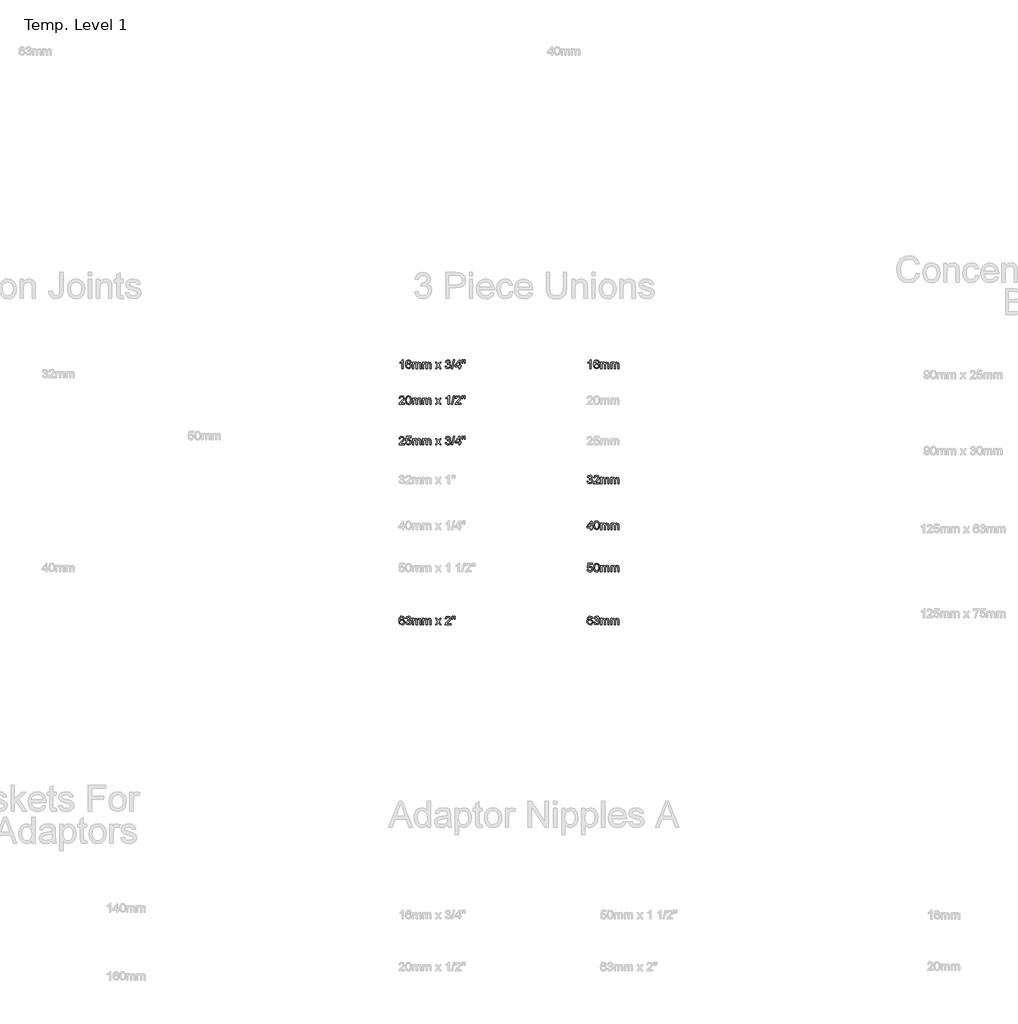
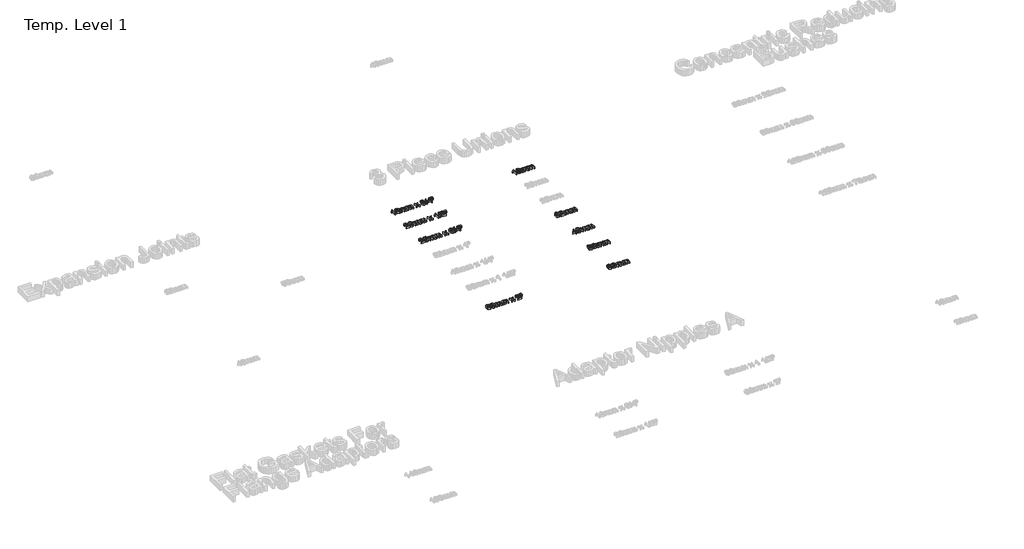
# One storey, part 13 of 62: 9 proxies.
"""IFC4 building model written with IfcOpenShell, lengths in millimetres."""

import ifcopenshell
import ifcopenshell.guid

model = None  # the IFC model being written
_history = None  # IfcOwnerHistory: only IFC2X3 demands one
_inside = {}  # id of a spatial element -> (the spatial element, [elements in it])
_under = {}  # id of a project, library or spatial element -> (it, [spatial elements below it])
_declared = {}  # id of a project -> (the project, [libraries it declares])
_typed = {}  # id of a type object -> (the type object, [elements of that type])
_made_of = {}  # id of a material, layer set ... -> (it, [elements and type objects made of it])


def new_model(schema):
    """Start an empty IFC model of exactly this schema.

    Asked for "IFC4X3", IfcOpenShell would pick the latest addendum, in which some entities
    have other attributes; the version numbers below select the first issue.
    IFC2X3 requires an IfcOwnerHistory on every rooted entity: one is made here for all.
    """
    global model, _history
    if schema == "IFC4X3":
        model = ifcopenshell.file(schema_version=(4, 3, 0, 0))
    else:
        model = ifcopenshell.file(schema=schema)
    _inside.clear()
    _under.clear()
    _declared.clear()
    _typed.clear()
    _made_of.clear()
    _history = None
    if model.schema == "IFC2X3":
        org = make("IfcOrganization", Name="unknown")
        user = make(
            "IfcPersonAndOrganization",
            ThePerson=make("IfcPerson", FamilyName="unknown"),
            TheOrganization=org,
        )
        app = make(
            "IfcApplication",
            ApplicationDeveloper=org,
            Version="unknown",
            ApplicationFullName="unknown",
            ApplicationIdentifier="unknown",
        )
        _history = make(
            "IfcOwnerHistory",
            OwningUser=user,
            OwningApplication=app,
            ChangeAction="ADDED",
            CreationDate=0,
        )
    return model


def make(cls, **values):
    """One entity of the class cls with the attributes given. An attribute that is None is left unset."""
    return model.create_entity(
        cls, **{name: value for name, value in values.items() if value is not None}
    )


def rooted(cls, **values):
    """An entity with a GlobalId (a new one), such as an element, a storey or a relation."""
    return make(cls, GlobalId=ifcopenshell.guid.new(), OwnerHistory=_history, **values)


def si_unit(unit_type, name, prefix=None):
    """IfcSIUnit, for example si_unit("LENGTHUNIT", "METRE", prefix="MILLI")."""
    return make("IfcSIUnit", UnitType=unit_type, Prefix=prefix, Name=name)


def assignment(units):
    """IfcUnitAssignment: the units of a project."""
    return None if units is None else make("IfcUnitAssignment", Units=units)


def point(xyz):
    """IfcCartesianPoint."""
    return None if xyz is None else make("IfcCartesianPoint", Coordinates=xyz)


def direction(xyz):
    """IfcDirection."""
    return None if xyz is None else make("IfcDirection", DirectionRatios=xyz)


def frame(location, z_axis=None, x_axis=None):
    """IfcAxis2Placement3D, a coordinate frame: its origin and axes. An axis left out is left unset."""
    return make(
        "IfcAxis2Placement3D",
        Location=point(location),
        Axis=direction(z_axis),
        RefDirection=direction(x_axis),
    )


def origin():
    """The frame at (0, 0, 0) with its axes left unset."""
    return frame((0.0, 0.0, 0.0))


def origin_with_axes():
    """The frame at (0, 0, 0) with the z axis (0, 0, 1) and the x axis (1, 0, 0) written out."""
    return frame((0.0, 0.0, 0.0), z_axis=(0.0, 0.0, 1.0), x_axis=(1.0, 0.0, 0.0))


def place(relative_to, where):
    """IfcLocalPlacement: puts the frame where relative to a parent placement (None: the world)."""
    return make(
        "IfcLocalPlacement", PlacementRelTo=relative_to, RelativePlacement=where
    )


def context(
    kind, dimensions, precision=None, world=None, true_north=None, identifier=None
):
    """IfcGeometricRepresentationContext, for example the 3D "Model" context."""
    return make(
        "IfcGeometricRepresentationContext",
        ContextIdentifier=identifier,
        ContextType=kind,
        CoordinateSpaceDimension=dimensions,
        Precision=precision,
        WorldCoordinateSystem=world,
        TrueNorth=true_north,
    )


def project(units=None, contexts=None):
    """IfcProject with its units and contexts."""
    return rooted(
        "IfcProject",
        Name="project",
        RepresentationContexts=contexts,
        UnitsInContext=assignment(units),
    )


def spatial(cls, under=None, at=None, **own):
    """A site, building, storey or space (cls), placed at a placement, below another one or the project."""
    s = rooted(cls, ObjectPlacement=at, **own)
    if under is not None:
        _under.setdefault(under.id(), (under, []))[1].append(s)
    return s


def polyline(points):
    """IfcPolyline through the points."""
    return make("IfcPolyline", Points=[point(p) for p in points])


def outline(outer, holes=None, kind="AREA"):
    """IfcArbitraryClosedProfileDef: a profile drawn as a closed curve; with holes, ...WithVoids."""
    if holes is None:
        return make("IfcArbitraryClosedProfileDef", ProfileType=kind, OuterCurve=outer)
    return make(
        "IfcArbitraryProfileDefWithVoids",
        ProfileType=kind,
        OuterCurve=outer,
        InnerCurves=holes,
    )


def extrude(swept, where, along, depth):
    """IfcExtrudedAreaSolid: the profile swept, set in the frame where, extruded along a direction by depth."""
    return make(
        "IfcExtrudedAreaSolid",
        SweptArea=swept,
        Position=where,
        ExtrudedDirection=direction(along),
        Depth=depth,
    )


def shape(context_of_items, identifier, shape_type, items):
    """IfcShapeRepresentation: the items that make up one representation, for example the "Body"."""
    return make(
        "IfcShapeRepresentation",
        ContextOfItems=context_of_items,
        RepresentationIdentifier=identifier,
        RepresentationType=shape_type,
        Items=items,
    )


def made_of(thing, what):
    """Note that an element or type object is made of a material, layer set ...; save() writes the relation."""
    if what is not None:
        _made_of.setdefault(what.id(), (what, []))[1].append(thing)
    return thing


def element(
    cls,
    number,
    at=None,
    inside=None,
    cuts=None,
    type_object=None,
    material=None,
    context=None,
    identifier="Body",
    shape_type=None,
    held_by="IfcProductDefinitionShape",
    body=None,
    shapes=None,
    **own,
):
    """One element of the class cls, such as IfcWall. Its Tag is "e" and its number.

    at: its placement. inside: the storey or other place that contains it. cuts: it is an
    opening in that element (IfcRelVoidsElement). A single representation is given by context,
    identifier, shape_type and body (its items); several are given by shapes. held_by: the class
    of the entity that holds the representations. save() writes the other relations.
    """
    e = rooted(cls, Tag="e%d" % number, ObjectPlacement=at, **own)
    if body is not None:
        shapes = [shape(context, identifier, shape_type, body)]
    if shapes is not None:
        e.Representation = make(held_by, Representations=shapes)
    if inside is not None:
        _inside.setdefault(inside.id(), (inside, []))[1].append(e)
    if cuts is not None:
        rooted(
            "IfcRelVoidsElement", RelatingBuildingElement=cuts, RelatedOpeningElement=e
        )
    if type_object is not None:
        _typed.setdefault(type_object.id(), (type_object, []))[1].append(e)
    return made_of(e, material)


def aggregate(whole, parts):
    """IfcRelAggregates: a whole, such as a stair, and the parts it consists of."""
    return rooted("IfcRelAggregates", RelatingObject=whole, RelatedObjects=parts)


def save(model, path):
    """Write the relations noted so far, then the file.

    IfcRelAggregates (storeys below a building ...), IfcRelContainedInSpatialStructure (elements
    in a storey), IfcRelDefinesByType, IfcRelAssociatesMaterial and IfcRelDeclares: one each for
    every whole, place, type object, material and project.
    """
    for whole, parts in _under.values():
        aggregate(whole, parts)
    for where, things in _inside.values():
        rooted(
            "IfcRelContainedInSpatialStructure",
            RelatedElements=things,
            RelatingStructure=where,
        )
    for kind, things in _typed.values():
        rooted("IfcRelDefinesByType", RelatedObjects=things, RelatingType=kind)
    for what, things in _made_of.values():
        rooted("IfcRelAssociatesMaterial", RelatedObjects=things, RelatingMaterial=what)
    for by, libraries in _declared.values():
        rooted("IfcRelDeclares", RelatingContext=by, RelatedDefinitions=libraries)
    model.write(path)


model = new_model("IFC4")

# Units and contexts
model_context = context("Model", 3, world=origin())
ifc_project = project(units=[si_unit("LENGTHUNIT", "METRE", prefix="MILLI")], contexts=[model_context])

# Site, building, storey
site = spatial("IfcSite", under=ifc_project)
building = spatial("IfcBuilding", under=site)
storey = spatial("IfcBuildingStorey", under=building, Name="Temp. Level 1", Elevation=0.0)

# Proxies
placement = place(None, origin())
element("IfcBuildingElementProxy", 1, Name="50mm Arial", ObjectType="50mm Arial", at=placement, inside=storey, context=model_context, shape_type="SweptSolid", body=[
    extrude(outline(polyline([(14674.252074, -4467.9759959), (14668.0982278, -4467.9759959), (14668.0982278, -4429.6106113), (14662.2689009, -4433.7632555), (14655.7905355, -4436.8702267), (14655.7905355, -4431.052919), (14664.8109682, -4425.2957074), (14670.2857278, -4418.7452267), (14674.252074, -4418.7452267), (14674.252074, -4467.9759959)])), origin_with_axes(), (0.0, 0.0, 1.0), 15.0),
    extrude(outline(polyline([(14720.4059201, -4431.8221497), (14714.252074, -4432.5913805), (14711.9203432, -4427.459169), (14705.7544778, -4424.8990728), (14700.2015932, -4426.3894574), (14696.0008721, -4431.9844093), (14694.252074, -4442.9519574), (14699.6787567, -4438.0421017), (14706.4035163, -4436.4375343), (14716.8602471, -4440.8245536), (14721.1751509, -4452.1586882), (14719.1439009, -4460.6502747), (14713.5549586, -4466.6598901), (14705.4900547, -4468.7452267), (14692.9479874, -4463.2163805), (14689.3106677, -4455.896669), (14688.0982278, -4444.9952267), (14689.4443817, -4432.7386161), (14693.4828432, -4424.3582074), (14698.9966653, -4420.1484718), (14706.1390932, -4418.7452267), (14715.8626509, -4422.2187843), (14720.4059201, -4431.8221497)]), holes=[polyline([(14694.252074, -4452.0625343), (14695.6763528, -4457.3930632), (14699.4624105, -4461.2632555), (14705.0092855, -4462.5913805), (14712.2628913, -4459.8389767), (14715.0213047, -4452.3630151), (14712.298949, -4445.2055632), (14704.7568817, -4442.5913805), (14697.3109682, -4445.2055632), (14694.252074, -4452.0625343)])]), origin_with_axes(), (0.0, 0.0, 1.0), 15.0),
    extrude(outline(polyline([(14728.0982278, -4467.9759959), (14728.0982278, -4431.8221497), (14734.252074, -4431.8221497), (14734.252074, -4437.771669), (14738.4828432, -4432.8978709), (14744.5044778, -4431.052919), (14750.6703432, -4432.9339286), (14754.0597663, -4438.2043613), (14758.861449, -4432.8407795), (14764.9251509, -4431.052919), (14772.9720259, -4434.0276786), (14775.7905355, -4443.192342), (14775.7905355, -4467.9759959), (14769.6366894, -4467.9759959), (14769.6366894, -4445.8365728), (14769.0657759, -4440.6983517), (14766.9984682, -4438.1683036), (14763.4828432, -4437.2067651), (14757.4311605, -4439.6707074), (14755.0213047, -4447.567342), (14755.0213047, -4467.9759959), (14748.8674586, -4467.9759959), (14748.8674586, -4445.1514767), (14747.4431797, -4439.1899382), (14742.7737086, -4437.2067651), (14738.2184201, -4438.5288805), (14735.189574, -4442.3990728), (14734.252074, -4449.7428228), (14734.252074, -4467.9759959), (14728.0982278, -4467.9759959)])), origin_with_axes(), (0.0, 0.0, 1.0), 15.0),
    extrude(outline(polyline([(14785.0213047, -4467.9759959), (14785.0213047, -4431.8221497), (14791.1751509, -4431.8221497), (14791.1751509, -4437.771669), (14795.4059201, -4432.8978709), (14801.4275547, -4431.052919), (14807.5934201, -4432.9339286), (14810.9828432, -4438.2043613), (14815.7845259, -4432.8407795), (14821.8482278, -4431.052919), (14829.8951028, -4434.0276786), (14832.7136124, -4443.192342), (14832.7136124, -4467.9759959), (14826.5597663, -4467.9759959), (14826.5597663, -4445.8365728), (14825.9888528, -4440.6983517), (14823.9215451, -4438.1683036), (14820.4059201, -4437.2067651), (14814.3542374, -4439.6707074), (14811.9443817, -4447.567342), (14811.9443817, -4467.9759959), (14805.7905355, -4467.9759959), (14805.7905355, -4445.1514767), (14804.3662567, -4439.1899382), (14799.6967855, -4437.2067651), (14795.1414971, -4438.5288805), (14792.1126509, -4442.3990728), (14791.1751509, -4449.7428228), (14791.1751509, -4467.9759959), (14785.0213047, -4467.9759959)])), origin_with_axes(), (0.0, 0.0, 1.0), 15.0),
    extrude(outline(polyline([(14857.3289971, -4467.9759959), (14870.4780355, -4449.802919), (14858.0982278, -4431.8221497), (14865.502074, -4431.8221497), (14871.4756317, -4440.4759959), (14874.2640932, -4444.5625343), (14876.6799586, -4441.2211882), (14883.4828432, -4431.8221497), (14890.8866894, -4431.8221497), (14877.8818817, -4449.802919), (14890.4059201, -4467.9759959), (14883.002074, -4467.9759959), (14875.4660163, -4457.0505151), (14874.0838047, -4455.0553228), (14864.7328432, -4467.9759959), (14857.3289971, -4467.9759959)])), origin_with_axes(), (0.0, 0.0, 1.0), 15.0),
    extrude(outline(polyline([(14913.4828432, -4454.8990728), (14919.6366894, -4454.129842), (14923.0321221, -4460.6082074), (14929.3842855, -4462.5913805), (14936.8602471, -4459.8630151), (14939.6366894, -4453.1082074), (14936.8842855, -4446.7440247), (14929.8890932, -4444.2259959), (14925.5741894, -4444.8990728), (14926.2592855, -4438.7452267), (14934.2280355, -4437.0505151), (14937.3289971, -4431.6178228), (14935.0814009, -4426.8041209), (14929.2881317, -4424.8990728), (14923.4227471, -4426.8221497), (14920.4059201, -4432.5913805), (14914.252074, -4431.8221497), (14919.2881317, -4422.1707074), (14929.0717855, -4418.7452267), (14936.4936605, -4420.4339286), (14941.6859682, -4425.0493132), (14943.4828432, -4431.2572459), (14941.7761124, -4436.9303228), (14936.7280355, -4441.004842), (14943.4347663, -4445.2115728), (14945.7905355, -4453.2163805), (14941.0789971, -4464.2259959), (14929.1679394, -4468.7452267), (14918.3746701, -4464.8870536), (14913.4828432, -4454.8990728)])), origin_with_axes(), (0.0, 0.0, 1.0), 15.0),
    extrude(outline(polyline([(14948.0982278, -4467.9759959), (14961.9443817, -4418.7452267), (14967.4972663, -4418.7452267), (14953.6511124, -4467.9759959), (14948.0982278, -4467.9759959)])), origin_with_axes(), (0.0, 0.0, 1.0), 15.0),
    extrude(outline(polyline([(14990.4059201, -4467.9759959), (14990.4059201, -4456.4375343), (14968.0982278, -4456.4375343), (14968.0982278, -4450.2836882), (14991.9443817, -4419.5144574), (14996.5597663, -4419.5144574), (14996.5597663, -4450.2836882), (15002.7136124, -4450.2836882), (15002.7136124, -4456.4375343), (14996.5597663, -4456.4375343), (14996.5597663, -4467.9759959), (14990.4059201, -4467.9759959)]), holes=[polyline([(14990.4059201, -4450.2836882), (14990.4059201, -4431.2692651), (14975.6703432, -4450.2836882), (14990.4059201, -4450.2836882)])]), origin_with_axes(), (0.0, 0.0, 1.0), 15.0),
    extrude(outline(polyline([(15021.8722663, -4436.4375343), (15020.4059201, -4426.9303228), (15020.4059201, -4418.7452267), (15026.5597663, -4418.7452267), (15026.5597663, -4426.9303228), (15025.1174586, -4436.4375343), (15021.8722663, -4436.4375343)])), origin_with_axes(), (0.0, 0.0, 1.0), 15.0),
    extrude(outline(polyline([(15009.6006317, -4436.4375343), (15008.0982278, -4426.9303228), (15008.0982278, -4418.7452267), (15014.252074, -4418.7452267), (15014.252074, -4426.9303228), (15012.9059201, -4436.4375343), (15009.6006317, -4436.4375343)])), origin_with_axes(), (0.0, 0.0, 1.0), 15.0),
])
element("IfcBuildingElementProxy", 2, Name="50mm Arial", ObjectType="50mm Arial", at=placement, inside=storey, context=model_context, shape_type="SweptSolid", body=[
    extrude(outline(polyline([(14682.7136124, -4665.3221497), (14682.7136124, -4671.4759959), (14650.4059201, -4671.4759959), (14651.0669778, -4667.2332074), (14654.8049586, -4660.7007555), (14662.5092855, -4653.567342), (14673.1342855, -4643.3149382), (14675.7905355, -4636.3437843), (14673.2845259, -4630.7007555), (14666.7400547, -4628.3990728), (14659.9191413, -4630.646669), (14657.3289971, -4636.8606113), (14651.1751509, -4636.0913805), (14655.892699, -4625.7908997), (14666.8722663, -4622.2452267), (14677.8878913, -4626.1875343), (14681.9443817, -4635.9711882), (14680.8506317, -4641.8065247), (14677.2148144, -4647.8401786), (14668.3987086, -4656.271669), (14661.3193817, -4662.1911401), (14658.5429394, -4665.3221497), (14682.7136124, -4665.3221497)])), origin_with_axes(), (0.0, 0.0, 1.0), 15.0),
    extrude(outline(polyline([(14688.8674586, -4647.2572459), (14690.6763528, -4633.0925824), (14696.048949, -4624.9255151), (14705.0213047, -4622.2452267), (14712.2088047, -4623.8317651), (14717.1727471, -4628.4050824), (14720.0573624, -4635.6887363), (14721.1751509, -4647.2572459), (14719.3842855, -4661.3618132), (14714.0297182, -4669.5469093), (14705.0213047, -4672.2452267), (14693.7713047, -4667.5577267), (14690.0934201, -4659.2314045), (14688.8674586, -4647.2572459)]), holes=[polyline([(14695.0213047, -4647.2452267), (14697.9059201, -4662.5276786), (14705.0213047, -4666.0913805), (14712.1366894, -4662.5156593), (14715.0213047, -4647.2452267), (14712.2328432, -4632.1370536), (14704.9491894, -4628.3990728), (14698.002074, -4631.692342), (14695.0213047, -4647.2452267)])]), origin_with_axes(), (0.0, 0.0, 1.0), 15.0),
    extrude(outline(polyline([(14728.0982278, -4671.4759959), (14728.0982278, -4635.3221497), (14734.252074, -4635.3221497), (14734.252074, -4641.271669), (14738.4828432, -4636.3978709), (14744.5044778, -4634.552919), (14750.6703432, -4636.4339286), (14754.0597663, -4641.7043613), (14758.861449, -4636.3407795), (14764.9251509, -4634.552919), (14772.9720259, -4637.5276786), (14775.7905355, -4646.692342), (14775.7905355, -4671.4759959), (14769.6366894, -4671.4759959), (14769.6366894, -4649.3365728), (14769.0657759, -4644.1983517), (14766.9984682, -4641.6683036), (14763.4828432, -4640.7067651), (14757.4311605, -4643.1707074), (14755.0213047, -4651.067342), (14755.0213047, -4671.4759959), (14748.8674586, -4671.4759959), (14748.8674586, -4648.6514767), (14747.4431797, -4642.6899382), (14742.7737086, -4640.7067651), (14738.2184201, -4642.0288805), (14735.189574, -4645.8990728), (14734.252074, -4653.2428228), (14734.252074, -4671.4759959), (14728.0982278, -4671.4759959)])), origin_with_axes(), (0.0, 0.0, 1.0), 15.0),
    extrude(outline(polyline([(14785.0213047, -4671.4759959), (14785.0213047, -4635.3221497), (14791.1751509, -4635.3221497), (14791.1751509, -4641.271669), (14795.4059201, -4636.3978709), (14801.4275547, -4634.552919), (14807.5934201, -4636.4339286), (14810.9828432, -4641.7043613), (14815.7845259, -4636.3407795), (14821.8482278, -4634.552919), (14829.8951028, -4637.5276786), (14832.7136124, -4646.692342), (14832.7136124, -4671.4759959), (14826.5597663, -4671.4759959), (14826.5597663, -4649.3365728), (14825.9888528, -4644.1983517), (14823.9215451, -4641.6683036), (14820.4059201, -4640.7067651), (14814.3542374, -4643.1707074), (14811.9443817, -4651.067342), (14811.9443817, -4671.4759959), (14805.7905355, -4671.4759959), (14805.7905355, -4648.6514767), (14804.3662567, -4642.6899382), (14799.6967855, -4640.7067651), (14795.1414971, -4642.0288805), (14792.1126509, -4645.8990728), (14791.1751509, -4653.2428228), (14791.1751509, -4671.4759959), (14785.0213047, -4671.4759959)])), origin_with_axes(), (0.0, 0.0, 1.0), 15.0),
    extrude(outline(polyline([(14857.3289971, -4671.4759959), (14870.4780355, -4653.302919), (14858.0982278, -4635.3221497), (14865.502074, -4635.3221497), (14871.4756317, -4643.9759959), (14874.2640932, -4648.0625343), (14876.6799586, -4644.7211882), (14883.4828432, -4635.3221497), (14890.8866894, -4635.3221497), (14877.8818817, -4653.302919), (14890.4059201, -4671.4759959), (14883.002074, -4671.4759959), (14875.4660163, -4660.5505151), (14874.0838047, -4658.5553228), (14864.7328432, -4671.4759959), (14857.3289971, -4671.4759959)])), origin_with_axes(), (0.0, 0.0, 1.0), 15.0),
    extrude(outline(polyline([(14936.5597663, -4671.4759959), (14930.4059201, -4671.4759959), (14930.4059201, -4633.1106113), (14924.5765932, -4637.2632555), (14918.0982278, -4640.3702267), (14918.0982278, -4634.552919), (14927.1186605, -4628.7957074), (14932.5934201, -4622.2452267), (14936.5597663, -4622.2452267), (14936.5597663, -4671.4759959)])), origin_with_axes(), (0.0, 0.0, 1.0), 15.0),
    extrude(outline(polyline([(14948.0982278, -4671.4759959), (14961.9443817, -4622.2452267), (14967.4972663, -4622.2452267), (14953.6511124, -4671.4759959), (14948.0982278, -4671.4759959)])), origin_with_axes(), (0.0, 0.0, 1.0), 15.0),
    extrude(outline(polyline([(15001.9443817, -4665.3221497), (15001.9443817, -4671.4759959), (14969.6366894, -4671.4759959), (14970.2977471, -4667.2332074), (14974.0357278, -4660.7007555), (14981.7400547, -4653.567342), (14992.3650547, -4643.3149382), (14995.0213047, -4636.3437843), (14992.5152951, -4630.7007555), (14985.970824, -4628.3990728), (14979.1499105, -4630.646669), (14976.5597663, -4636.8606113), (14970.4059201, -4636.0913805), (14975.1234682, -4625.7908997), (14986.1030355, -4622.2452267), (14997.1186605, -4626.1875343), (15001.1751509, -4635.9711882), (15000.0814009, -4641.8065247), (14996.4455836, -4647.8401786), (14987.6294778, -4656.271669), (14980.5501509, -4662.1911401), (14977.7737086, -4665.3221497), (15001.9443817, -4665.3221497)])), origin_with_axes(), (0.0, 0.0, 1.0), 15.0),
    extrude(outline(polyline([(15021.8722663, -4639.9375343), (15020.4059201, -4630.4303228), (15020.4059201, -4622.2452267), (15026.5597663, -4622.2452267), (15026.5597663, -4630.4303228), (15025.1174586, -4639.9375343), (15021.8722663, -4639.9375343)])), origin_with_axes(), (0.0, 0.0, 1.0), 15.0),
    extrude(outline(polyline([(15009.6006317, -4639.9375343), (15008.0982278, -4630.4303228), (15008.0982278, -4622.2452267), (15014.252074, -4622.2452267), (15014.252074, -4630.4303228), (15012.9059201, -4639.9375343), (15009.6006317, -4639.9375343)])), origin_with_axes(), (0.0, 0.0, 1.0), 15.0),
])
element("IfcBuildingElementProxy", 3, Name="50mm Arial", ObjectType="50mm Arial", at=placement, inside=storey, context=model_context, shape_type="SweptSolid", body=[
    extrude(outline(polyline([(14682.7136124, -4895.3221497), (14682.7136124, -4901.4759959), (14650.4059201, -4901.4759959), (14651.0669778, -4897.2332074), (14654.8049586, -4890.7007555), (14662.5092855, -4883.567342), (14673.1342855, -4873.3149382), (14675.7905355, -4866.3437843), (14673.2845259, -4860.7007555), (14666.7400547, -4858.3990728), (14659.9191413, -4860.646669), (14657.3289971, -4866.8606113), (14651.1751509, -4866.0913805), (14655.892699, -4855.7908997), (14666.8722663, -4852.2452267), (14677.8878913, -4856.1875343), (14681.9443817, -4865.9711882), (14680.8506317, -4871.8065247), (14677.2148144, -4877.8401786), (14668.3987086, -4886.271669), (14661.3193817, -4892.1911401), (14658.5429394, -4895.3221497), (14682.7136124, -4895.3221497)])), origin_with_axes(), (0.0, 0.0, 1.0), 15.0),
    extrude(outline(polyline([(14688.8674586, -4888.3990728), (14695.0213047, -4887.629842), (14698.1222663, -4893.9699863), (14704.5525547, -4896.0913805), (14712.2689009, -4893.1406593), (14715.0213047, -4885.3101305), (14712.4431797, -4878.0024382), (14704.6487086, -4875.3221497), (14699.2460644, -4876.3918613), (14695.7905355, -4879.1683036), (14689.6366894, -4878.3990728), (14695.0213047, -4853.0144574), (14718.8674586, -4853.0144574), (14718.8674586, -4859.1683036), (14699.9972663, -4859.1683036), (14697.3650547, -4872.7259959), (14706.3674586, -4869.1683036), (14716.8902951, -4873.5793613), (14721.1751509, -4884.9255151), (14717.3169778, -4896.3437843), (14711.7761124, -4900.7698661), (14704.5285163, -4902.2452267), (14693.6691413, -4898.4531593), (14688.8674586, -4888.3990728)])), origin_with_axes(), (0.0, 0.0, 1.0), 15.0),
    extrude(outline(polyline([(14728.0982278, -4901.4759959), (14728.0982278, -4865.3221497), (14734.252074, -4865.3221497), (14734.252074, -4871.271669), (14738.4828432, -4866.3978709), (14744.5044778, -4864.552919), (14750.6703432, -4866.4339286), (14754.0597663, -4871.7043613), (14758.861449, -4866.3407795), (14764.9251509, -4864.552919), (14772.9720259, -4867.5276786), (14775.7905355, -4876.692342), (14775.7905355, -4901.4759959), (14769.6366894, -4901.4759959), (14769.6366894, -4879.3365728), (14769.0657759, -4874.1983517), (14766.9984682, -4871.6683036), (14763.4828432, -4870.7067651), (14757.4311605, -4873.1707074), (14755.0213047, -4881.067342), (14755.0213047, -4901.4759959), (14748.8674586, -4901.4759959), (14748.8674586, -4878.6514767), (14747.4431797, -4872.6899382), (14742.7737086, -4870.7067651), (14738.2184201, -4872.0288805), (14735.189574, -4875.8990728), (14734.252074, -4883.2428228), (14734.252074, -4901.4759959), (14728.0982278, -4901.4759959)])), origin_with_axes(), (0.0, 0.0, 1.0), 15.0),
    extrude(outline(polyline([(14785.0213047, -4901.4759959), (14785.0213047, -4865.3221497), (14791.1751509, -4865.3221497), (14791.1751509, -4871.271669), (14795.4059201, -4866.3978709), (14801.4275547, -4864.552919), (14807.5934201, -4866.4339286), (14810.9828432, -4871.7043613), (14815.7845259, -4866.3407795), (14821.8482278, -4864.552919), (14829.8951028, -4867.5276786), (14832.7136124, -4876.692342), (14832.7136124, -4901.4759959), (14826.5597663, -4901.4759959), (14826.5597663, -4879.3365728), (14825.9888528, -4874.1983517), (14823.9215451, -4871.6683036), (14820.4059201, -4870.7067651), (14814.3542374, -4873.1707074), (14811.9443817, -4881.067342), (14811.9443817, -4901.4759959), (14805.7905355, -4901.4759959), (14805.7905355, -4878.6514767), (14804.3662567, -4872.6899382), (14799.6967855, -4870.7067651), (14795.1414971, -4872.0288805), (14792.1126509, -4875.8990728), (14791.1751509, -4883.2428228), (14791.1751509, -4901.4759959), (14785.0213047, -4901.4759959)])), origin_with_axes(), (0.0, 0.0, 1.0), 15.0),
    extrude(outline(polyline([(14857.3289971, -4901.4759959), (14870.4780355, -4883.302919), (14858.0982278, -4865.3221497), (14865.502074, -4865.3221497), (14871.4756317, -4873.9759959), (14874.2640932, -4878.0625343), (14876.6799586, -4874.7211882), (14883.4828432, -4865.3221497), (14890.8866894, -4865.3221497), (14877.8818817, -4883.302919), (14890.4059201, -4901.4759959), (14883.002074, -4901.4759959), (14875.4660163, -4890.5505151), (14874.0838047, -4888.5553228), (14864.7328432, -4901.4759959), (14857.3289971, -4901.4759959)])), origin_with_axes(), (0.0, 0.0, 1.0), 15.0),
    extrude(outline(polyline([(14913.4828432, -4888.3990728), (14919.6366894, -4887.629842), (14923.0321221, -4894.1082074), (14929.3842855, -4896.0913805), (14936.8602471, -4893.3630151), (14939.6366894, -4886.6082074), (14936.8842855, -4880.2440247), (14929.8890932, -4877.7259959), (14925.5741894, -4878.3990728), (14926.2592855, -4872.2452267), (14934.2280355, -4870.5505151), (14937.3289971, -4865.1178228), (14935.0814009, -4860.3041209), (14929.2881317, -4858.3990728), (14923.4227471, -4860.3221497), (14920.4059201, -4866.0913805), (14914.252074, -4865.3221497), (14919.2881317, -4855.6707074), (14929.0717855, -4852.2452267), (14936.4936605, -4853.9339286), (14941.6859682, -4858.5493132), (14943.4828432, -4864.7572459), (14941.7761124, -4870.4303228), (14936.7280355, -4874.504842), (14943.4347663, -4878.7115728), (14945.7905355, -4886.7163805), (14941.0789971, -4897.7259959), (14929.1679394, -4902.2452267), (14918.3746701, -4898.3870536), (14913.4828432, -4888.3990728)])), origin_with_axes(), (0.0, 0.0, 1.0), 15.0),
    extrude(outline(polyline([(14948.0982278, -4901.4759959), (14961.9443817, -4852.2452267), (14967.4972663, -4852.2452267), (14953.6511124, -4901.4759959), (14948.0982278, -4901.4759959)])), origin_with_axes(), (0.0, 0.0, 1.0), 15.0),
    extrude(outline(polyline([(14990.4059201, -4901.4759959), (14990.4059201, -4889.9375343), (14968.0982278, -4889.9375343), (14968.0982278, -4883.7836882), (14991.9443817, -4853.0144574), (14996.5597663, -4853.0144574), (14996.5597663, -4883.7836882), (15002.7136124, -4883.7836882), (15002.7136124, -4889.9375343), (14996.5597663, -4889.9375343), (14996.5597663, -4901.4759959), (14990.4059201, -4901.4759959)]), holes=[polyline([(14990.4059201, -4883.7836882), (14990.4059201, -4864.7692651), (14975.6703432, -4883.7836882), (14990.4059201, -4883.7836882)])]), origin_with_axes(), (0.0, 0.0, 1.0), 15.0),
    extrude(outline(polyline([(15021.8722663, -4869.9375343), (15020.4059201, -4860.4303228), (15020.4059201, -4852.2452267), (15026.5597663, -4852.2452267), (15026.5597663, -4860.4303228), (15025.1174586, -4869.9375343), (15021.8722663, -4869.9375343)])), origin_with_axes(), (0.0, 0.0, 1.0), 15.0),
    extrude(outline(polyline([(15009.6006317, -4869.9375343), (15008.0982278, -4860.4303228), (15008.0982278, -4852.2452267), (15014.252074, -4852.2452267), (15014.252074, -4860.4303228), (15012.9059201, -4869.9375343), (15009.6006317, -4869.9375343)])), origin_with_axes(), (0.0, 0.0, 1.0), 15.0),
])
element("IfcBuildingElementProxy", 4, Name="50mm Arial", ObjectType="50mm Arial", at=placement, inside=storey, context=model_context, shape_type="SweptSolid", body=[
    extrude(outline(polyline([(14682.7136124, -5885.3221497), (14676.5597663, -5886.0913805), (14674.2280355, -5880.959169), (14668.0621701, -5878.3990728), (14662.5092855, -5879.8894574), (14658.3085644, -5885.4844093), (14656.5597663, -5896.4519574), (14661.986449, -5891.5421017), (14668.7112086, -5889.9375343), (14679.1679394, -5894.3245536), (14683.4828432, -5905.6586882), (14681.4515932, -5914.1502747), (14675.8626509, -5920.1598901), (14667.7977471, -5922.2452267), (14655.2556797, -5916.7163805), (14651.61836, -5909.396669), (14650.4059201, -5898.4952267), (14651.752074, -5886.2386161), (14655.7905355, -5877.8582074), (14661.3043576, -5873.6484718), (14668.4467855, -5872.2452267), (14678.1703432, -5875.7187843), (14682.7136124, -5885.3221497)]), holes=[polyline([(14656.5597663, -5905.5625343), (14657.9840451, -5910.8930632), (14661.7701028, -5914.7632555), (14667.3169778, -5916.0913805), (14674.5705836, -5913.3389767), (14677.3289971, -5905.8630151), (14674.6066413, -5898.7055632), (14667.064574, -5896.0913805), (14659.6186605, -5898.7055632), (14656.5597663, -5905.5625343)])]), origin_with_axes(), (0.0, 0.0, 1.0), 15.0),
    extrude(outline(polyline([(14688.8674586, -5908.3990728), (14695.0213047, -5907.629842), (14698.4167374, -5914.1082074), (14704.7689009, -5916.0913805), (14712.2448624, -5913.3630151), (14715.0213047, -5906.6082074), (14712.2689009, -5900.2440247), (14705.2737086, -5897.7259959), (14700.9588047, -5898.3990728), (14701.6439009, -5892.2452267), (14709.6126509, -5890.5505151), (14712.7136124, -5885.1178228), (14710.4660163, -5880.3041209), (14704.6727471, -5878.3990728), (14698.8073624, -5880.3221497), (14695.7905355, -5886.0913805), (14689.6366894, -5885.3221497), (14694.6727471, -5875.6707074), (14704.4564009, -5872.2452267), (14711.8782759, -5873.9339286), (14717.0705836, -5878.5493132), (14718.8674586, -5884.7572459), (14717.1607278, -5890.4303228), (14712.1126509, -5894.504842), (14718.8193817, -5898.7115728), (14721.1751509, -5906.7163805), (14716.4636124, -5917.7259959), (14704.5525547, -5922.2452267), (14693.7592855, -5918.3870536), (14688.8674586, -5908.3990728)])), origin_with_axes(), (0.0, 0.0, 1.0), 15.0),
    extrude(outline(polyline([(14728.0982278, -5921.4759959), (14728.0982278, -5885.3221497), (14734.252074, -5885.3221497), (14734.252074, -5891.271669), (14738.4828432, -5886.3978709), (14744.5044778, -5884.552919), (14750.6703432, -5886.4339286), (14754.0597663, -5891.7043613), (14758.861449, -5886.3407795), (14764.9251509, -5884.552919), (14772.9720259, -5887.5276786), (14775.7905355, -5896.692342), (14775.7905355, -5921.4759959), (14769.6366894, -5921.4759959), (14769.6366894, -5899.3365728), (14769.0657759, -5894.1983517), (14766.9984682, -5891.6683036), (14763.4828432, -5890.7067651), (14757.4311605, -5893.1707074), (14755.0213047, -5901.067342), (14755.0213047, -5921.4759959), (14748.8674586, -5921.4759959), (14748.8674586, -5898.6514767), (14747.4431797, -5892.6899382), (14742.7737086, -5890.7067651), (14738.2184201, -5892.0288805), (14735.189574, -5895.8990728), (14734.252074, -5903.2428228), (14734.252074, -5921.4759959), (14728.0982278, -5921.4759959)])), origin_with_axes(), (0.0, 0.0, 1.0), 15.0),
    extrude(outline(polyline([(14785.0213047, -5921.4759959), (14785.0213047, -5885.3221497), (14791.1751509, -5885.3221497), (14791.1751509, -5891.271669), (14795.4059201, -5886.3978709), (14801.4275547, -5884.552919), (14807.5934201, -5886.4339286), (14810.9828432, -5891.7043613), (14815.7845259, -5886.3407795), (14821.8482278, -5884.552919), (14829.8951028, -5887.5276786), (14832.7136124, -5896.692342), (14832.7136124, -5921.4759959), (14826.5597663, -5921.4759959), (14826.5597663, -5899.3365728), (14825.9888528, -5894.1983517), (14823.9215451, -5891.6683036), (14820.4059201, -5890.7067651), (14814.3542374, -5893.1707074), (14811.9443817, -5901.067342), (14811.9443817, -5921.4759959), (14805.7905355, -5921.4759959), (14805.7905355, -5898.6514767), (14804.3662567, -5892.6899382), (14799.6967855, -5890.7067651), (14795.1414971, -5892.0288805), (14792.1126509, -5895.8990728), (14791.1751509, -5903.2428228), (14791.1751509, -5921.4759959), (14785.0213047, -5921.4759959)])), origin_with_axes(), (0.0, 0.0, 1.0), 15.0),
    extrude(outline(polyline([(14857.3289971, -5921.4759959), (14870.4780355, -5903.302919), (14858.0982278, -5885.3221497), (14865.502074, -5885.3221497), (14871.4756317, -5893.9759959), (14874.2640932, -5898.0625343), (14876.6799586, -5894.7211882), (14883.4828432, -5885.3221497), (14890.8866894, -5885.3221497), (14877.8818817, -5903.302919), (14890.4059201, -5921.4759959), (14883.002074, -5921.4759959), (14875.4660163, -5910.5505151), (14874.0838047, -5908.5553228), (14864.7328432, -5921.4759959), (14857.3289971, -5921.4759959)])), origin_with_axes(), (0.0, 0.0, 1.0), 15.0),
    extrude(outline(polyline([(14945.0213047, -5915.3221497), (14945.0213047, -5921.4759959), (14912.7136124, -5921.4759959), (14913.3746701, -5917.2332074), (14917.1126509, -5910.7007555), (14924.8169778, -5903.567342), (14935.4419778, -5893.3149382), (14938.0982278, -5886.3437843), (14935.5922182, -5880.7007555), (14929.0477471, -5878.3990728), (14922.2268336, -5880.646669), (14919.6366894, -5886.8606113), (14913.4828432, -5886.0913805), (14918.2003913, -5875.7908997), (14929.1799586, -5872.2452267), (14940.1955836, -5876.1875343), (14944.252074, -5885.9711882), (14943.158324, -5891.8065247), (14939.5225067, -5897.8401786), (14930.7064009, -5906.271669), (14923.627074, -5912.1911401), (14920.8506317, -5915.3221497), (14945.0213047, -5915.3221497)])), origin_with_axes(), (0.0, 0.0, 1.0), 15.0),
    extrude(outline(polyline([(14952.6775547, -5889.9375343), (14951.1751509, -5880.4303228), (14951.1751509, -5872.2452267), (14957.3289971, -5872.2452267), (14957.3289971, -5880.4303228), (14955.9828432, -5889.9375343), (14952.6775547, -5889.9375343)])), origin_with_axes(), (0.0, 0.0, 1.0), 15.0),
    extrude(outline(polyline([(14964.9491894, -5889.9375343), (14963.4828432, -5880.4303228), (14963.4828432, -5872.2452267), (14969.6366894, -5872.2452267), (14969.6366894, -5880.4303228), (14968.1943817, -5889.9375343), (14964.9491894, -5889.9375343)])), origin_with_axes(), (0.0, 0.0, 1.0), 15.0),
])
element("IfcBuildingElementProxy", 5, Name="50mm Arial", ObjectType="50mm Arial", at=placement, inside=storey, context=model_context, shape_type="SweptSolid", body=[
    extrude(outline(polyline([(15741.9443817, -4467.9759959), (15735.7905355, -4467.9759959), (15735.7905355, -4429.6106113), (15729.9612086, -4433.7632555), (15723.4828432, -4436.8702267), (15723.4828432, -4431.052919), (15732.5032759, -4425.2957074), (15737.9780355, -4418.7452267), (15741.9443817, -4418.7452267), (15741.9443817, -4467.9759959)])), origin_with_axes(), (0.0, 0.0, 1.0), 15.0),
    extrude(outline(polyline([(15788.0982278, -4431.8221497), (15781.9443817, -4432.5913805), (15779.6126509, -4427.459169), (15773.4467855, -4424.8990728), (15767.8939009, -4426.3894574), (15763.6931797, -4431.9844093), (15761.9443817, -4442.9519574), (15767.3710644, -4438.0421017), (15774.095824, -4436.4375343), (15784.5525547, -4440.8245536), (15788.8674586, -4452.1586882), (15786.8362086, -4460.6502747), (15781.2472663, -4466.6598901), (15773.1823624, -4468.7452267), (15760.6402951, -4463.2163805), (15757.0029754, -4455.896669), (15755.7905355, -4444.9952267), (15757.1366894, -4432.7386161), (15761.1751509, -4424.3582074), (15766.688973, -4420.1484718), (15773.8314009, -4418.7452267), (15783.5549586, -4422.2187843), (15788.0982278, -4431.8221497)]), holes=[polyline([(15761.9443817, -4452.0625343), (15763.3686605, -4457.3930632), (15767.1547182, -4461.2632555), (15772.7015932, -4462.5913805), (15779.955199, -4459.8389767), (15782.7136124, -4452.3630151), (15779.9912567, -4445.2055632), (15772.4491894, -4442.5913805), (15765.0032759, -4445.2055632), (15761.9443817, -4452.0625343)])]), origin_with_axes(), (0.0, 0.0, 1.0), 15.0),
    extrude(outline(polyline([(15795.7905355, -4467.9759959), (15795.7905355, -4431.8221497), (15801.9443817, -4431.8221497), (15801.9443817, -4437.771669), (15806.1751509, -4432.8978709), (15812.1967855, -4431.052919), (15818.3626509, -4432.9339286), (15821.752074, -4438.2043613), (15826.5537567, -4432.8407795), (15832.6174586, -4431.052919), (15840.6643336, -4434.0276786), (15843.4828432, -4443.192342), (15843.4828432, -4467.9759959), (15837.3289971, -4467.9759959), (15837.3289971, -4445.8365728), (15836.7580836, -4440.6983517), (15834.6907759, -4438.1683036), (15831.1751509, -4437.2067651), (15825.1234682, -4439.6707074), (15822.7136124, -4447.567342), (15822.7136124, -4467.9759959), (15816.5597663, -4467.9759959), (15816.5597663, -4445.1514767), (15815.1354874, -4439.1899382), (15810.4660163, -4437.2067651), (15805.9107278, -4438.5288805), (15802.8818817, -4442.3990728), (15801.9443817, -4449.7428228), (15801.9443817, -4467.9759959), (15795.7905355, -4467.9759959)])), origin_with_axes(), (0.0, 0.0, 1.0), 15.0),
    extrude(outline(polyline([(15852.7136124, -4467.9759959), (15852.7136124, -4431.8221497), (15858.8674586, -4431.8221497), (15858.8674586, -4437.771669), (15863.0982278, -4432.8978709), (15869.1198624, -4431.052919), (15875.2857278, -4432.9339286), (15878.6751509, -4438.2043613), (15883.4768336, -4432.8407795), (15889.5405355, -4431.052919), (15897.5874105, -4434.0276786), (15900.4059201, -4443.192342), (15900.4059201, -4467.9759959), (15894.252074, -4467.9759959), (15894.252074, -4445.8365728), (15893.6811605, -4440.6983517), (15891.6138528, -4438.1683036), (15888.0982278, -4437.2067651), (15882.0465451, -4439.6707074), (15879.6366894, -4447.567342), (15879.6366894, -4467.9759959), (15873.4828432, -4467.9759959), (15873.4828432, -4445.1514767), (15872.0585644, -4439.1899382), (15867.3890932, -4437.2067651), (15862.8338047, -4438.5288805), (15859.8049586, -4442.3990728), (15858.8674586, -4449.7428228), (15858.8674586, -4467.9759959), (15852.7136124, -4467.9759959)])), origin_with_axes(), (0.0, 0.0, 1.0), 15.0),
])
element("IfcBuildingElementProxy", 6, Name="50mm Arial", ObjectType="50mm Arial", at=placement, inside=storey, context=model_context, shape_type="SweptSolid", body=[
    extrude(outline(polyline([(15718.8674586, -5108.3990728), (15725.0213047, -5107.629842), (15728.4167374, -5114.1082074), (15734.7689009, -5116.0913805), (15742.2448624, -5113.3630151), (15745.0213047, -5106.6082074), (15742.2689009, -5100.2440247), (15735.2737086, -5097.7259959), (15730.9588047, -5098.3990728), (15731.6439009, -5092.2452267), (15739.6126509, -5090.5505151), (15742.7136124, -5085.1178228), (15740.4660163, -5080.3041209), (15734.6727471, -5078.3990728), (15728.8073624, -5080.3221497), (15725.7905355, -5086.0913805), (15719.6366894, -5085.3221497), (15724.6727471, -5075.6707074), (15734.4564009, -5072.2452267), (15741.8782759, -5073.9339286), (15747.0705836, -5078.5493132), (15748.8674586, -5084.7572459), (15747.1607278, -5090.4303228), (15742.1126509, -5094.504842), (15748.8193817, -5098.7115728), (15751.1751509, -5106.7163805), (15746.4636124, -5117.7259959), (15734.5525547, -5122.2452267), (15723.7592855, -5118.3870536), (15718.8674586, -5108.3990728)])), origin_with_axes(), (0.0, 0.0, 1.0), 15.0),
    extrude(outline(polyline([(15788.0982278, -5115.3221497), (15788.0982278, -5121.4759959), (15755.7905355, -5121.4759959), (15756.4515932, -5117.2332074), (15760.189574, -5110.7007555), (15767.8939009, -5103.567342), (15778.5189009, -5093.3149382), (15781.1751509, -5086.3437843), (15778.6691413, -5080.7007555), (15772.1246701, -5078.3990728), (15765.3037567, -5080.646669), (15762.7136124, -5086.8606113), (15756.5597663, -5086.0913805), (15761.2773144, -5075.7908997), (15772.2568817, -5072.2452267), (15783.2725067, -5076.1875343), (15787.3289971, -5085.9711882), (15786.2352471, -5091.8065247), (15782.5994297, -5097.8401786), (15773.783324, -5106.271669), (15766.7039971, -5112.1911401), (15763.9275547, -5115.3221497), (15788.0982278, -5115.3221497)])), origin_with_axes(), (0.0, 0.0, 1.0), 15.0),
    extrude(outline(polyline([(15795.7905355, -5121.4759959), (15795.7905355, -5085.3221497), (15801.9443817, -5085.3221497), (15801.9443817, -5091.271669), (15806.1751509, -5086.3978709), (15812.1967855, -5084.552919), (15818.3626509, -5086.4339286), (15821.752074, -5091.7043613), (15826.5537567, -5086.3407795), (15832.6174586, -5084.552919), (15840.6643336, -5087.5276786), (15843.4828432, -5096.692342), (15843.4828432, -5121.4759959), (15837.3289971, -5121.4759959), (15837.3289971, -5099.3365728), (15836.7580836, -5094.1983517), (15834.6907759, -5091.6683036), (15831.1751509, -5090.7067651), (15825.1234682, -5093.1707074), (15822.7136124, -5101.067342), (15822.7136124, -5121.4759959), (15816.5597663, -5121.4759959), (15816.5597663, -5098.6514767), (15815.1354874, -5092.6899382), (15810.4660163, -5090.7067651), (15805.9107278, -5092.0288805), (15802.8818817, -5095.8990728), (15801.9443817, -5103.2428228), (15801.9443817, -5121.4759959), (15795.7905355, -5121.4759959)])), origin_with_axes(), (0.0, 0.0, 1.0), 15.0),
    extrude(outline(polyline([(15852.7136124, -5121.4759959), (15852.7136124, -5085.3221497), (15858.8674586, -5085.3221497), (15858.8674586, -5091.271669), (15863.0982278, -5086.3978709), (15869.1198624, -5084.552919), (15875.2857278, -5086.4339286), (15878.6751509, -5091.7043613), (15883.4768336, -5086.3407795), (15889.5405355, -5084.552919), (15897.5874105, -5087.5276786), (15900.4059201, -5096.692342), (15900.4059201, -5121.4759959), (15894.252074, -5121.4759959), (15894.252074, -5099.3365728), (15893.6811605, -5094.1983517), (15891.6138528, -5091.6683036), (15888.0982278, -5090.7067651), (15882.0465451, -5093.1707074), (15879.6366894, -5101.067342), (15879.6366894, -5121.4759959), (15873.4828432, -5121.4759959), (15873.4828432, -5098.6514767), (15872.0585644, -5092.6899382), (15867.3890932, -5090.7067651), (15862.8338047, -5092.0288805), (15859.8049586, -5095.8990728), (15858.8674586, -5103.2428228), (15858.8674586, -5121.4759959), (15852.7136124, -5121.4759959)])), origin_with_axes(), (0.0, 0.0, 1.0), 15.0),
])
element("IfcBuildingElementProxy", 7, Name="50mm Arial", ObjectType="50mm Arial", at=placement, inside=storey, context=model_context, shape_type="SweptSolid", body=[
    extrude(outline(polyline([(15738.8674586, -5381.4759959), (15738.8674586, -5369.9375343), (15716.5597663, -5369.9375343), (15716.5597663, -5363.7836882), (15740.4059201, -5333.0144574), (15745.0213047, -5333.0144574), (15745.0213047, -5363.7836882), (15751.1751509, -5363.7836882), (15751.1751509, -5369.9375343), (15745.0213047, -5369.9375343), (15745.0213047, -5381.4759959), (15738.8674586, -5381.4759959)]), holes=[polyline([(15738.8674586, -5363.7836882), (15738.8674586, -5344.7692651), (15724.1318817, -5363.7836882), (15738.8674586, -5363.7836882)])]), origin_with_axes(), (0.0, 0.0, 1.0), 15.0),
    extrude(outline(polyline([(15756.5597663, -5357.2572459), (15758.3686605, -5343.0925824), (15763.7412567, -5334.9255151), (15772.7136124, -5332.2452267), (15779.9011124, -5333.8317651), (15784.8650547, -5338.4050824), (15787.7496701, -5345.6887363), (15788.8674586, -5357.2572459), (15787.0765932, -5371.3618132), (15781.7220259, -5379.5469093), (15772.7136124, -5382.2452267), (15761.4636124, -5377.5577267), (15757.7857278, -5369.2314045), (15756.5597663, -5357.2572459)]), holes=[polyline([(15762.7136124, -5357.2452267), (15765.5982278, -5372.5276786), (15772.7136124, -5376.0913805), (15779.8289971, -5372.5156593), (15782.7136124, -5357.2452267), (15779.9251509, -5342.1370536), (15772.6414971, -5338.3990728), (15765.6943817, -5341.692342), (15762.7136124, -5357.2452267)])]), origin_with_axes(), (0.0, 0.0, 1.0), 15.0),
    extrude(outline(polyline([(15795.7905355, -5381.4759959), (15795.7905355, -5345.3221497), (15801.9443817, -5345.3221497), (15801.9443817, -5351.271669), (15806.1751509, -5346.3978709), (15812.1967855, -5344.552919), (15818.3626509, -5346.4339286), (15821.752074, -5351.7043613), (15826.5537567, -5346.3407795), (15832.6174586, -5344.552919), (15840.6643336, -5347.5276786), (15843.4828432, -5356.692342), (15843.4828432, -5381.4759959), (15837.3289971, -5381.4759959), (15837.3289971, -5359.3365728), (15836.7580836, -5354.1983517), (15834.6907759, -5351.6683036), (15831.1751509, -5350.7067651), (15825.1234682, -5353.1707074), (15822.7136124, -5361.067342), (15822.7136124, -5381.4759959), (15816.5597663, -5381.4759959), (15816.5597663, -5358.6514767), (15815.1354874, -5352.6899382), (15810.4660163, -5350.7067651), (15805.9107278, -5352.0288805), (15802.8818817, -5355.8990728), (15801.9443817, -5363.2428228), (15801.9443817, -5381.4759959), (15795.7905355, -5381.4759959)])), origin_with_axes(), (0.0, 0.0, 1.0), 15.0),
    extrude(outline(polyline([(15852.7136124, -5381.4759959), (15852.7136124, -5345.3221497), (15858.8674586, -5345.3221497), (15858.8674586, -5351.271669), (15863.0982278, -5346.3978709), (15869.1198624, -5344.552919), (15875.2857278, -5346.4339286), (15878.6751509, -5351.7043613), (15883.4768336, -5346.3407795), (15889.5405355, -5344.552919), (15897.5874105, -5347.5276786), (15900.4059201, -5356.692342), (15900.4059201, -5381.4759959), (15894.252074, -5381.4759959), (15894.252074, -5359.3365728), (15893.6811605, -5354.1983517), (15891.6138528, -5351.6683036), (15888.0982278, -5350.7067651), (15882.0465451, -5353.1707074), (15879.6366894, -5361.067342), (15879.6366894, -5381.4759959), (15873.4828432, -5381.4759959), (15873.4828432, -5358.6514767), (15872.0585644, -5352.6899382), (15867.3890932, -5350.7067651), (15862.8338047, -5352.0288805), (15859.8049586, -5355.8990728), (15858.8674586, -5363.2428228), (15858.8674586, -5381.4759959), (15852.7136124, -5381.4759959)])), origin_with_axes(), (0.0, 0.0, 1.0), 15.0),
])
element("IfcBuildingElementProxy", 8, Name="50mm Arial", ObjectType="50mm Arial", at=placement, inside=storey, context=model_context, shape_type="SweptSolid", body=[
    extrude(outline(polyline([(15718.8674586, -5608.3990728), (15725.0213047, -5607.629842), (15728.1222663, -5613.9699863), (15734.5525547, -5616.0913805), (15742.2689009, -5613.1406593), (15745.0213047, -5605.3101305), (15742.4431797, -5598.0024382), (15734.6487086, -5595.3221497), (15729.2460644, -5596.3918613), (15725.7905355, -5599.1683036), (15719.6366894, -5598.3990728), (15725.0213047, -5573.0144574), (15748.8674586, -5573.0144574), (15748.8674586, -5579.1683036), (15729.9972663, -5579.1683036), (15727.3650547, -5592.7259959), (15736.3674586, -5589.1683036), (15746.8902951, -5593.5793613), (15751.1751509, -5604.9255151), (15747.3169778, -5616.3437843), (15741.7761124, -5620.7698661), (15734.5285163, -5622.2452267), (15723.6691413, -5618.4531593), (15718.8674586, -5608.3990728)])), origin_with_axes(), (0.0, 0.0, 1.0), 15.0),
    extrude(outline(polyline([(15756.5597663, -5597.2572459), (15758.3686605, -5583.0925824), (15763.7412567, -5574.9255151), (15772.7136124, -5572.2452267), (15779.9011124, -5573.8317651), (15784.8650547, -5578.4050824), (15787.7496701, -5585.6887363), (15788.8674586, -5597.2572459), (15787.0765932, -5611.3618132), (15781.7220259, -5619.5469093), (15772.7136124, -5622.2452267), (15761.4636124, -5617.5577267), (15757.7857278, -5609.2314045), (15756.5597663, -5597.2572459)]), holes=[polyline([(15762.7136124, -5597.2452267), (15765.5982278, -5612.5276786), (15772.7136124, -5616.0913805), (15779.8289971, -5612.5156593), (15782.7136124, -5597.2452267), (15779.9251509, -5582.1370536), (15772.6414971, -5578.3990728), (15765.6943817, -5581.692342), (15762.7136124, -5597.2452267)])]), origin_with_axes(), (0.0, 0.0, 1.0), 15.0),
    extrude(outline(polyline([(15795.7905355, -5621.4759959), (15795.7905355, -5585.3221497), (15801.9443817, -5585.3221497), (15801.9443817, -5591.271669), (15806.1751509, -5586.3978709), (15812.1967855, -5584.552919), (15818.3626509, -5586.4339286), (15821.752074, -5591.7043613), (15826.5537567, -5586.3407795), (15832.6174586, -5584.552919), (15840.6643336, -5587.5276786), (15843.4828432, -5596.692342), (15843.4828432, -5621.4759959), (15837.3289971, -5621.4759959), (15837.3289971, -5599.3365728), (15836.7580836, -5594.1983517), (15834.6907759, -5591.6683036), (15831.1751509, -5590.7067651), (15825.1234682, -5593.1707074), (15822.7136124, -5601.067342), (15822.7136124, -5621.4759959), (15816.5597663, -5621.4759959), (15816.5597663, -5598.6514767), (15815.1354874, -5592.6899382), (15810.4660163, -5590.7067651), (15805.9107278, -5592.0288805), (15802.8818817, -5595.8990728), (15801.9443817, -5603.2428228), (15801.9443817, -5621.4759959), (15795.7905355, -5621.4759959)])), origin_with_axes(), (0.0, 0.0, 1.0), 15.0),
    extrude(outline(polyline([(15852.7136124, -5621.4759959), (15852.7136124, -5585.3221497), (15858.8674586, -5585.3221497), (15858.8674586, -5591.271669), (15863.0982278, -5586.3978709), (15869.1198624, -5584.552919), (15875.2857278, -5586.4339286), (15878.6751509, -5591.7043613), (15883.4768336, -5586.3407795), (15889.5405355, -5584.552919), (15897.5874105, -5587.5276786), (15900.4059201, -5596.692342), (15900.4059201, -5621.4759959), (15894.252074, -5621.4759959), (15894.252074, -5599.3365728), (15893.6811605, -5594.1983517), (15891.6138528, -5591.6683036), (15888.0982278, -5590.7067651), (15882.0465451, -5593.1707074), (15879.6366894, -5601.067342), (15879.6366894, -5621.4759959), (15873.4828432, -5621.4759959), (15873.4828432, -5598.6514767), (15872.0585644, -5592.6899382), (15867.3890932, -5590.7067651), (15862.8338047, -5592.0288805), (15859.8049586, -5595.8990728), (15858.8674586, -5603.2428228), (15858.8674586, -5621.4759959), (15852.7136124, -5621.4759959)])), origin_with_axes(), (0.0, 0.0, 1.0), 15.0),
])
element("IfcBuildingElementProxy", 9, Name="50mm Arial", ObjectType="50mm Arial", at=placement, inside=storey, context=model_context, shape_type="SweptSolid", body=[
    extrude(outline(polyline([(15750.4059201, -5885.3221497), (15744.252074, -5886.0913805), (15741.9203432, -5880.959169), (15735.7544778, -5878.3990728), (15730.2015932, -5879.8894574), (15726.0008721, -5885.4844093), (15724.252074, -5896.4519574), (15729.6787567, -5891.5421017), (15736.4035163, -5889.9375343), (15746.8602471, -5894.3245536), (15751.1751509, -5905.6586882), (15749.1439009, -5914.1502747), (15743.5549586, -5920.1598901), (15735.4900547, -5922.2452267), (15722.9479874, -5916.7163805), (15719.3106677, -5909.396669), (15718.0982278, -5898.4952267), (15719.4443817, -5886.2386161), (15723.4828432, -5877.8582074), (15728.9966653, -5873.6484718), (15736.1390932, -5872.2452267), (15745.8626509, -5875.7187843), (15750.4059201, -5885.3221497)]), holes=[polyline([(15724.252074, -5905.5625343), (15725.6763528, -5910.8930632), (15729.4624105, -5914.7632555), (15735.0092855, -5916.0913805), (15742.2628913, -5913.3389767), (15745.0213047, -5905.8630151), (15742.298949, -5898.7055632), (15734.7568817, -5896.0913805), (15727.3109682, -5898.7055632), (15724.252074, -5905.5625343)])]), origin_with_axes(), (0.0, 0.0, 1.0), 15.0),
    extrude(outline(polyline([(15756.5597663, -5908.3990728), (15762.7136124, -5907.629842), (15766.1090451, -5914.1082074), (15772.4612086, -5916.0913805), (15779.9371701, -5913.3630151), (15782.7136124, -5906.6082074), (15779.9612086, -5900.2440247), (15772.9660163, -5897.7259959), (15768.6511124, -5898.3990728), (15769.3362086, -5892.2452267), (15777.3049586, -5890.5505151), (15780.4059201, -5885.1178228), (15778.158324, -5880.3041209), (15772.3650547, -5878.3990728), (15766.4996701, -5880.3221497), (15763.4828432, -5886.0913805), (15757.3289971, -5885.3221497), (15762.3650547, -5875.6707074), (15772.1487086, -5872.2452267), (15779.5705836, -5873.9339286), (15784.7628913, -5878.5493132), (15786.5597663, -5884.7572459), (15784.8530355, -5890.4303228), (15779.8049586, -5894.504842), (15786.5116894, -5898.7115728), (15788.8674586, -5906.7163805), (15784.1559201, -5917.7259959), (15772.2448624, -5922.2452267), (15761.4515932, -5918.3870536), (15756.5597663, -5908.3990728)])), origin_with_axes(), (0.0, 0.0, 1.0), 15.0),
    extrude(outline(polyline([(15795.7905355, -5921.4759959), (15795.7905355, -5885.3221497), (15801.9443817, -5885.3221497), (15801.9443817, -5891.271669), (15806.1751509, -5886.3978709), (15812.1967855, -5884.552919), (15818.3626509, -5886.4339286), (15821.752074, -5891.7043613), (15826.5537567, -5886.3407795), (15832.6174586, -5884.552919), (15840.6643336, -5887.5276786), (15843.4828432, -5896.692342), (15843.4828432, -5921.4759959), (15837.3289971, -5921.4759959), (15837.3289971, -5899.3365728), (15836.7580836, -5894.1983517), (15834.6907759, -5891.6683036), (15831.1751509, -5890.7067651), (15825.1234682, -5893.1707074), (15822.7136124, -5901.067342), (15822.7136124, -5921.4759959), (15816.5597663, -5921.4759959), (15816.5597663, -5898.6514767), (15815.1354874, -5892.6899382), (15810.4660163, -5890.7067651), (15805.9107278, -5892.0288805), (15802.8818817, -5895.8990728), (15801.9443817, -5903.2428228), (15801.9443817, -5921.4759959), (15795.7905355, -5921.4759959)])), origin_with_axes(), (0.0, 0.0, 1.0), 15.0),
    extrude(outline(polyline([(15852.7136124, -5921.4759959), (15852.7136124, -5885.3221497), (15858.8674586, -5885.3221497), (15858.8674586, -5891.271669), (15863.0982278, -5886.3978709), (15869.1198624, -5884.552919), (15875.2857278, -5886.4339286), (15878.6751509, -5891.7043613), (15883.4768336, -5886.3407795), (15889.5405355, -5884.552919), (15897.5874105, -5887.5276786), (15900.4059201, -5896.692342), (15900.4059201, -5921.4759959), (15894.252074, -5921.4759959), (15894.252074, -5899.3365728), (15893.6811605, -5894.1983517), (15891.6138528, -5891.6683036), (15888.0982278, -5890.7067651), (15882.0465451, -5893.1707074), (15879.6366894, -5901.067342), (15879.6366894, -5921.4759959), (15873.4828432, -5921.4759959), (15873.4828432, -5898.6514767), (15872.0585644, -5892.6899382), (15867.3890932, -5890.7067651), (15862.8338047, -5892.0288805), (15859.8049586, -5895.8990728), (15858.8674586, -5903.2428228), (15858.8674586, -5921.4759959), (15852.7136124, -5921.4759959)])), origin_with_axes(), (0.0, 0.0, 1.0), 15.0),
])

save(model, "model.ifc")
